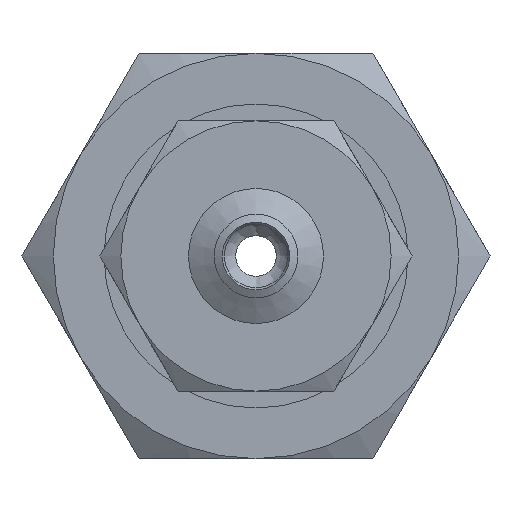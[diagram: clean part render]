
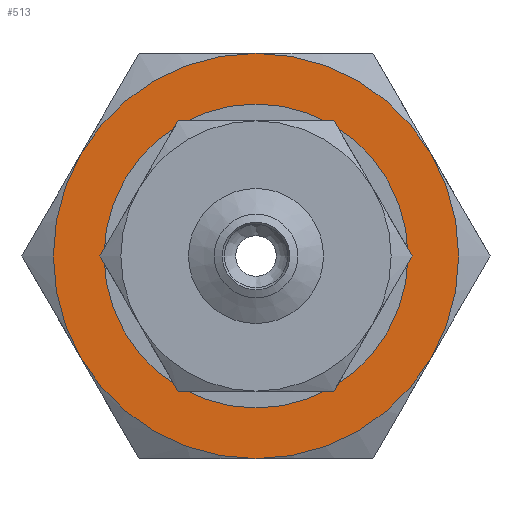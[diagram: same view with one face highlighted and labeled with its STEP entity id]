
A CAD part, front view. The second image highlights one B-rep face of the part: STEP entity #513.
In plain terms, the highlighted planar face has unit normal (0, -1, 0) as drawn and (-1, 0, 0) by its records, which use the part's own axes.
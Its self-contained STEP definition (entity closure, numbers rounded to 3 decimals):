
#513=ADVANCED_FACE('',(#737,#738),#739,.F.);
#737=FACE_BOUND('',#1102,.T.);
#738=FACE_OUTER_BOUND('',#1103,.T.);
#739=PLANE('',#1104);
#1102=EDGE_LOOP('',(#1986));
#1103=EDGE_LOOP('',(#1987,#1988,#1989,#1990,#1991,#1992));
#1104=AXIS2_PLACEMENT_3D('',#1993,#1994,#1995);
#1986=ORIENTED_EDGE('',*,*,#2659,.T.);
#1987=ORIENTED_EDGE('',*,*,#2658,.F.);
#1988=ORIENTED_EDGE('',*,*,#2631,.F.);
#1989=ORIENTED_EDGE('',*,*,#2623,.F.);
#1990=ORIENTED_EDGE('',*,*,#2650,.F.);
#1991=ORIENTED_EDGE('',*,*,#2653,.F.);
#1992=ORIENTED_EDGE('',*,*,#2661,.F.);
#1993=CARTESIAN_POINT('',(0.,0.0,0.0));
#1994=DIRECTION('',(1.0,0.0,0.0));
#1995=DIRECTION('',(0.0,1.0,0.0));
#2623=EDGE_CURVE('',#2945,#2946,#2947,.T.);
#2631=EDGE_CURVE('',#2946,#2960,#2961,.T.);
#2650=EDGE_CURVE('',#2993,#2945,#2994,.T.);
#2653=EDGE_CURVE('',#2980,#2993,#2997,.T.);
#2658=EDGE_CURVE('',#2960,#3001,#3004,.T.);
#2659=EDGE_CURVE('',#3005,#3005,#3006,.T.);
#2661=EDGE_CURVE('',#3001,#2980,#3009,.T.);
#2945=VERTEX_POINT('',#3479);
#2946=VERTEX_POINT('',#3480);
#2947=CIRCLE('',#3481,6.0);
#2960=VERTEX_POINT('',#3546);
#2961=CIRCLE('',#3547,6.0);
#2980=VERTEX_POINT('',#3629);
#2993=VERTEX_POINT('',#3703);
#2994=CIRCLE('',#3704,6.0);
#2997=CIRCLE('',#3727,6.0);
#3001=VERTEX_POINT('',#3751);
#3004=CIRCLE('',#3774,6.0);
#3005=VERTEX_POINT('',#3775);
#3006=CIRCLE('',#3776,4.0);
#3009=CIRCLE('',#3779,6.0);
#3479=CARTESIAN_POINT('',(0.,-5.196,-3.0));
#3480=CARTESIAN_POINT('',(0.,0.0,-6.0));
#3481=AXIS2_PLACEMENT_3D('',#4422,#4423,#4424);
#3546=CARTESIAN_POINT('',(0.,5.196,-3.0));
#3547=AXIS2_PLACEMENT_3D('',#4427,#4428,#4429);
#3629=CARTESIAN_POINT('',(0.,0.0,6.0));
#3703=CARTESIAN_POINT('',(0.,-5.196,3.0));
#3704=AXIS2_PLACEMENT_3D('',#4440,#4441,#4442);
#3727=AXIS2_PLACEMENT_3D('',#4443,#4444,#4445);
#3751=CARTESIAN_POINT('',(0.,5.196,3.0));
#3774=AXIS2_PLACEMENT_3D('',#4446,#4447,#4448);
#3775=CARTESIAN_POINT('',(0.,0.0,-4.0));
#3776=AXIS2_PLACEMENT_3D('',#4449,#4450,#4451);
#3779=AXIS2_PLACEMENT_3D('',#4455,#4456,#4457);
#4422=CARTESIAN_POINT('',(0.,0.0,0.0));
#4423=DIRECTION('',(1.0,0.0,0.0));
#4424=DIRECTION('',(0.0,0.0,-1.0));
#4427=CARTESIAN_POINT('',(0.,0.0,0.0));
#4428=DIRECTION('',(1.0,0.0,0.0));
#4429=DIRECTION('',(0.0,0.0,-1.0));
#4440=CARTESIAN_POINT('',(0.,0.0,0.0));
#4441=DIRECTION('',(1.0,0.0,0.0));
#4442=DIRECTION('',(0.0,0.0,-1.0));
#4443=CARTESIAN_POINT('',(0.,0.0,0.0));
#4444=DIRECTION('',(1.0,0.0,0.0));
#4445=DIRECTION('',(0.0,0.0,-1.0));
#4446=CARTESIAN_POINT('',(0.,0.0,0.0));
#4447=DIRECTION('',(1.0,0.0,0.0));
#4448=DIRECTION('',(0.0,0.0,-1.0));
#4449=CARTESIAN_POINT('',(0.,0.0,0.0));
#4450=DIRECTION('',(1.0,0.0,0.0));
#4451=DIRECTION('',(0.0,0.0,-1.0));
#4455=CARTESIAN_POINT('',(0.,0.0,0.0));
#4456=DIRECTION('',(1.0,0.0,0.0));
#4457=DIRECTION('',(0.0,0.0,-1.0));
